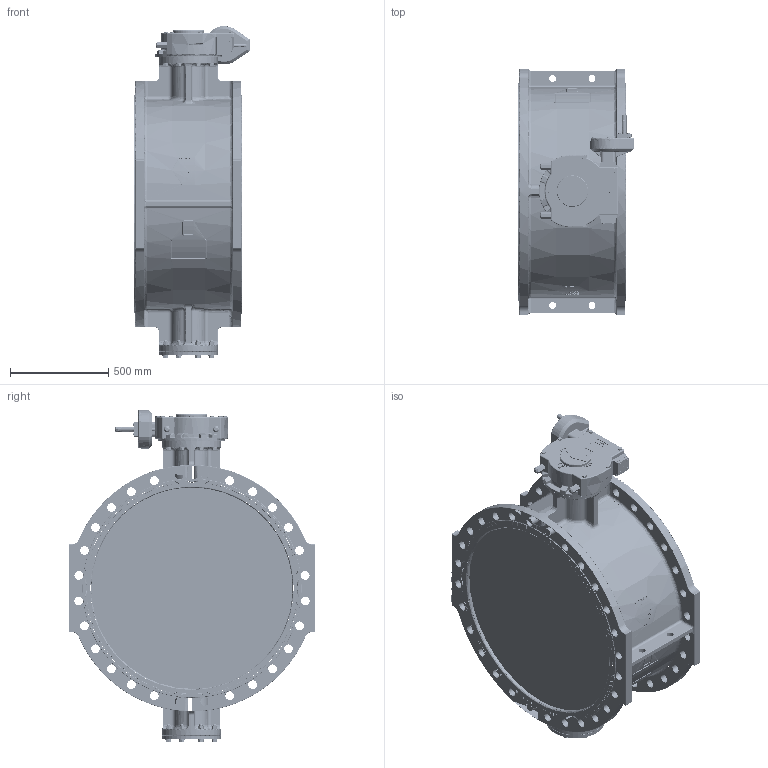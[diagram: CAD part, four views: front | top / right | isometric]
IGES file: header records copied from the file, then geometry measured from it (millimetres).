
Start section: SolidWorks IGES file using analytic representation for surfaces
Global section: file name: C:\Documents and Settings\Paji\Desktop\756100011400501\Part7.IGS; native system: SolidWorks 2008; preprocessor: SolidWorks 2008; author: paji; date: 100929.144626; units: millimetre
Bounding box: 587 x 1255 x 1690 mm (x, y, z)
Surface area: 7426920.7 mm2 (no closed solid volume)
Topology: 0 solids, 0 shells, 5032 faces, 69787 edges, 69557 vertices
Faces by surface type: bspline 2810, revolution 2222
